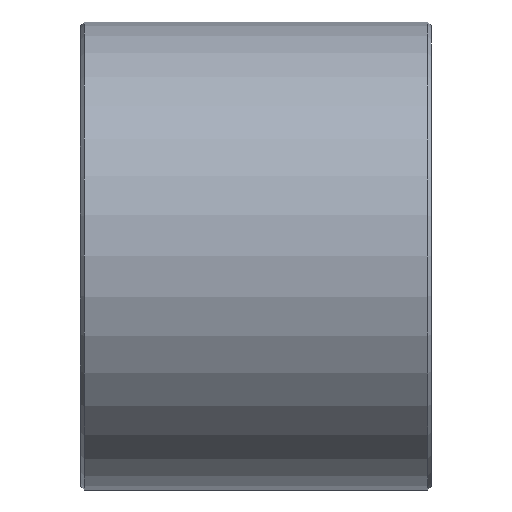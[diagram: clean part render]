
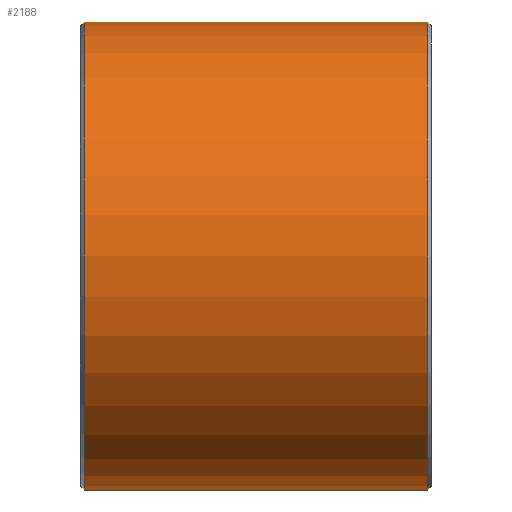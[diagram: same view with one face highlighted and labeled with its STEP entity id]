
A CAD part, front view. The second image highlights one B-rep face of the part: STEP entity #2188.
In plain terms, the highlighted cylindrical face has radius 30 mm (diameter 60 mm), a partial arc.
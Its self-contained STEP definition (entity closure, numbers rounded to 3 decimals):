
#88=DIRECTION('',(1.,0.,0.));
#89=VECTOR('',#88,44.);
#90=CARTESIAN_POINT('',(-22.,0.,
-30.));
#91=LINE('',#90,#89);
#143=CARTESIAN_POINT('',(22.,0.,0.));
#144=DIRECTION('',(1.,0.,0.));
#145=DIRECTION('',(0.,0.,1.));
#146=AXIS2_PLACEMENT_3D('',#143,#144,#145);
#148=CARTESIAN_POINT('',(-22.,0.,0.));
#149=DIRECTION('',(-1.,0.,0.));
#150=DIRECTION('',(0.,0.,-1.));
#151=AXIS2_PLACEMENT_3D('',#148,#149,#150);
#153=DIRECTION('',(1.,0.,0.));
#154=VECTOR('',#153,44.);
#155=CARTESIAN_POINT('',(-22.,0.,
30.));
#156=LINE('',#155,#154);
#2049=CARTESIAN_POINT('',(22.,0.,30.));
#2050=CARTESIAN_POINT('',(22.,0.,-30.));
#2051=VERTEX_POINT('',#2049);
#2052=VERTEX_POINT('',#2050);
#2057=CARTESIAN_POINT('',(-22.,0.,-30.));
#2058=CARTESIAN_POINT('',(-22.,0.,30.));
#2059=VERTEX_POINT('',#2057);
#2060=VERTEX_POINT('',#2058);
#2177=CARTESIAN_POINT('',(-22.5,0.,0.));
#2178=DIRECTION('',(1.,0.,0.));
#2179=DIRECTION('',(0.,0.,-1.));
#2180=AXIS2_PLACEMENT_3D('',#2177,#2178,#2179);
#2181=CYLINDRICAL_SURFACE('',#2180,30.);
#2182=ORIENTED_EDGE('',*,*,#2171,.T.);
#2183=ORIENTED_EDGE('',*,*,#2121,.F.);
#2184=ORIENTED_EDGE('',*,*,#2091,.T.);
#2185=ORIENTED_EDGE('',*,*,#2118,.T.);
#2186=EDGE_LOOP('',(#2182,#2183,#2184,#2185));
#2187=FACE_OUTER_BOUND('',#2186,.F.);
#2188=ADVANCED_FACE('',(#2187),#2181,.T.);
#147=CIRCLE('',#146,30.);
#152=CIRCLE('',#151,30.);
#2091=EDGE_CURVE('',#2059,#2060,#152,.T.);
#2118=EDGE_CURVE('',#2060,#2051,#156,.T.);
#2121=EDGE_CURVE('',#2059,#2052,#91,.T.);
#2171=EDGE_CURVE('',#2051,#2052,#147,.T.);
